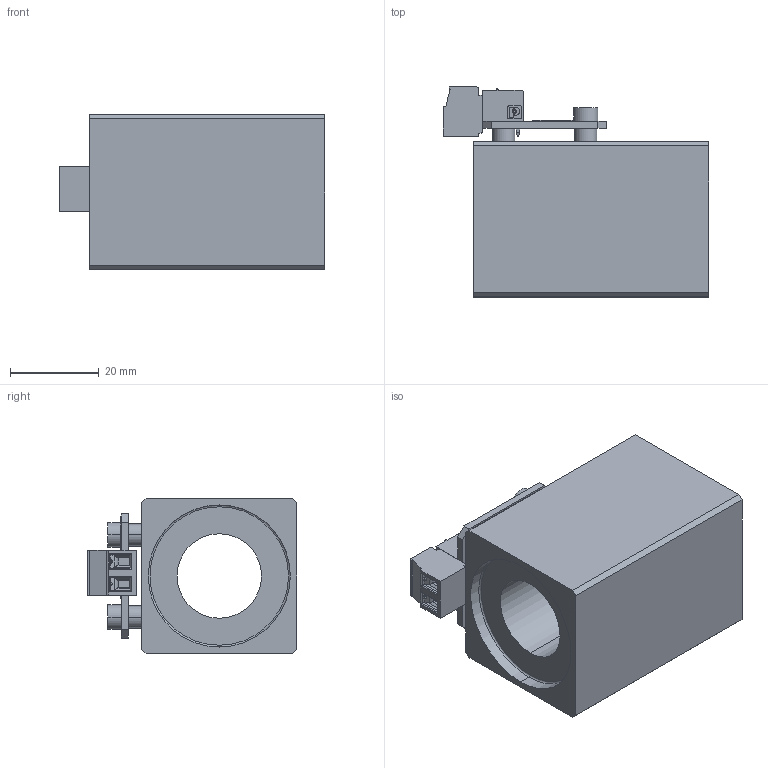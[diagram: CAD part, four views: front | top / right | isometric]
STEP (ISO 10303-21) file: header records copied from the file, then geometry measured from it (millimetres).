
FILE_DESCRIPTION (( 'STEP AP214' ), '1' );
FILE_NAME ('NXS35_19x50-M209a.STEP', '2015-07-28T14:10:19', ( '' ), ( '' ), 'SwSTEP 2.0', 'SolidWorks 2014', '' );
FILE_SCHEMA (( 'AUTOMOTIVE_DESIGN' ));
Length unit declared in the file: millimetre
Products named in the file (2): NXS35_19x50-M209a
Bounding box: 59.9 x 47.3 x 35 mm (x, y, z)
Volume: 50532 mm3; surface area: 17319.1 mm2
Topology: 14 solids, 16 shells, 587 faces, 1493 edges, 972 vertices
Faces by surface type: plane 363, cylinder 187, bspline 17, cone 14, torus 6
Entity records: 24638 total; most frequent: CARTESIAN_POINT 3702, ORIENTED_EDGE 2966, DIRECTION 2942, EDGE_CURVE 1483, VECTOR 998, LINE 998, VERTEX_POINT 972, AXIS2_PLACEMENT_3D 972
